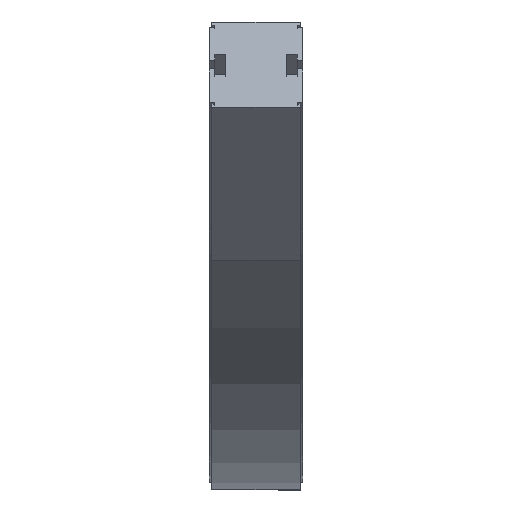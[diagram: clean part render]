
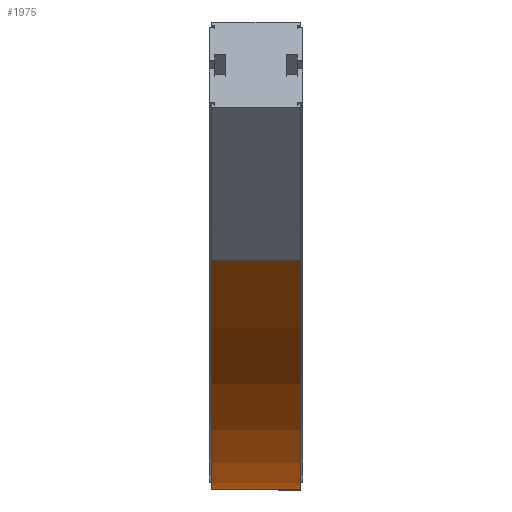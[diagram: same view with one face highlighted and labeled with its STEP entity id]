
A CAD part, top view. The second image highlights one B-rep face of the part: STEP entity #1975.
In plain terms, the highlighted cylindrical face has radius 542 mm (diameter 1084 mm), a partial arc.
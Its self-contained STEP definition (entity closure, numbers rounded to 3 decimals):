
#56 = DIRECTION ( 'NONE',  ( 0., 0., 1. ) ) ;
#126 = DIRECTION ( 'NONE',  ( 0., 0., 1. ) ) ;
#156 = VECTOR ( 'NONE', #2038, 1000. ) ;
#220 = CARTESIAN_POINT ( 'NONE',  ( -30.65, -42., 150. ) ) ;
#319 = EDGE_CURVE ( 'NONE', #378, #2948, #2455, .T. ) ;
#378 = VERTEX_POINT ( 'NONE', #2349 ) ;
#469 = CARTESIAN_POINT ( 'NONE',  ( -30.65, 116.748, 533.252 ) ) ;
#509 = EDGE_CURVE ( 'NONE', #378, #2783, #3095, .T. ) ;
#587 = VERTEX_POINT ( 'NONE', #469 ) ;
#624 = CARTESIAN_POINT ( 'NONE',  ( -30.65, 116.748, 533.252 ) ) ;
#699 = CARTESIAN_POINT ( 'NONE',  ( -30.65, 500., 150. ) ) ;
#700 = FACE_OUTER_BOUND ( 'NONE', #2267, .T. ) ;
#850 = AXIS2_PLACEMENT_3D ( 'NONE', #2942, #2547, #126 ) ;
#1128 = LINE ( 'NONE', #624, #156 ) ;
#1308 = DIRECTION ( 'NONE',  ( -1., 0., 0. ) ) ;
#1351 = ORIENTED_EDGE ( 'NONE', *, *, #2288, .T. ) ;
#1659 = CARTESIAN_POINT ( 'NONE',  ( -30.65, -42., 150. ) ) ;
#1795 = CARTESIAN_POINT ( 'NONE',  ( 30.65, 116.748, 533.252 ) ) ;
#1812 = VECTOR ( 'NONE', #1908, 1000. ) ;
#1901 = CYLINDRICAL_SURFACE ( 'NONE', #2955, 542. ) ;
#1908 = DIRECTION ( 'NONE',  ( -1., 0., 0. ) ) ;
#1919 = ORIENTED_EDGE ( 'NONE', *, *, #509, .F. ) ;
#1975 = ADVANCED_FACE ( 'NONE', ( #700 ), #1901, .T. ) ;
#2038 = DIRECTION ( 'NONE',  ( -1., 0., 0. ) ) ;
#2052 = DIRECTION ( 'NONE',  ( 0., 0., 1. ) ) ;
#2068 = ORIENTED_EDGE ( 'NONE', *, *, #2264, .F. ) ;
#2207 = CIRCLE ( 'NONE', #2341, 542. ) ;
#2264 = EDGE_CURVE ( 'NONE', #2783, #587, #2207, .T. ) ;
#2267 = EDGE_LOOP ( 'NONE', ( #1919, #2275, #1351, #2068 ) ) ;
#2275 = ORIENTED_EDGE ( 'NONE', *, *, #319, .T. ) ;
#2288 = EDGE_CURVE ( 'NONE', #2948, #587, #1128, .T. ) ;
#2341 = AXIS2_PLACEMENT_3D ( 'NONE', #699, #1308, #2052 ) ;
#2349 = CARTESIAN_POINT ( 'NONE',  ( 30.65, -42., 150. ) ) ;
#2455 = CIRCLE ( 'NONE', #850, 542. ) ;
#2547 = DIRECTION ( 'NONE',  ( -1., 0., 0. ) ) ;
#2783 = VERTEX_POINT ( 'NONE', #1659 ) ;
#2901 = CARTESIAN_POINT ( 'NONE',  ( 0., 500., 150. ) ) ;
#2942 = CARTESIAN_POINT ( 'NONE',  ( 30.65, 500., 150. ) ) ;
#2948 = VERTEX_POINT ( 'NONE', #1795 ) ;
#2955 = AXIS2_PLACEMENT_3D ( 'NONE', #2901, #2961, #56 ) ;
#2961 = DIRECTION ( 'NONE',  ( -1., 0., 0. ) ) ;
#3095 = LINE ( 'NONE', #220, #1812 ) ;
